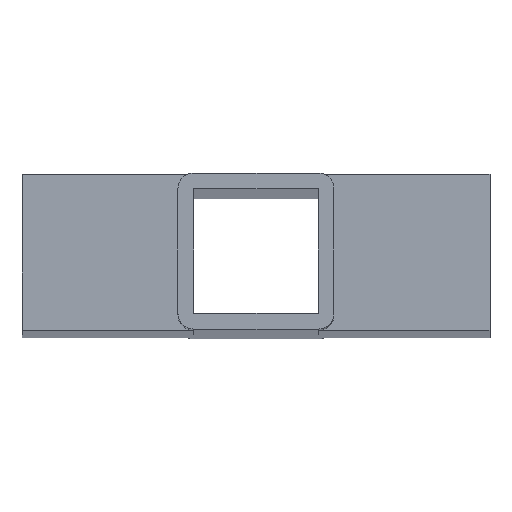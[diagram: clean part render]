
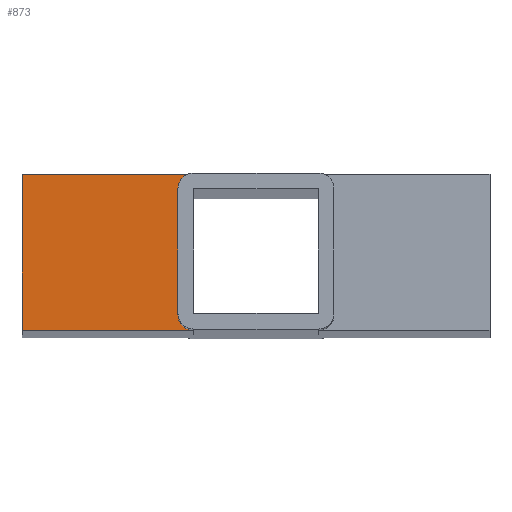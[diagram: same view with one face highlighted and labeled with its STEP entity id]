
A CAD part, top view. The second image highlights one B-rep face of the part: STEP entity #873.
In plain terms, the highlighted planar face has unit normal (0, 0, 1).
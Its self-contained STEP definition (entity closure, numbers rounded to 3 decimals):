
#44 = CARTESIAN_POINT ( 'NONE',  ( 0., 15., 400. ) ) ;
#69 = CARTESIAN_POINT ( 'NONE',  ( -12., 15., 400. ) ) ;
#86 = VERTEX_POINT ( 'NONE', #359 ) ;
#95 = VERTEX_POINT ( 'NONE', #365 ) ;
#97 = ORIENTED_EDGE ( 'NONE', *, *, #801, .F. ) ;
#107 = ORIENTED_EDGE ( 'NONE', *, *, #672, .F. ) ;
#114 = DIRECTION ( 'NONE',  ( -1., 0., 0. ) ) ;
#126 = CIRCLE ( 'NONE', #378, 3. ) ;
#130 = CARTESIAN_POINT ( 'NONE',  ( -12., -12., 400. ) ) ;
#136 = CARTESIAN_POINT ( 'NONE',  ( -45., 0., 400. ) ) ;
#146 = LINE ( 'NONE', #136, #1140 ) ;
#165 = LINE ( 'NONE', #614, #1149 ) ;
#227 = DIRECTION ( 'NONE',  ( 0., 0., 1. ) ) ;
#259 = DIRECTION ( 'NONE',  ( 0., -1., 0. ) ) ;
#260 = CARTESIAN_POINT ( 'NONE',  ( -45., -15., 400. ) ) ;
#261 = ORIENTED_EDGE ( 'NONE', *, *, #302, .F. ) ;
#302 = EDGE_CURVE ( 'NONE', #453, #364, #742, .T. ) ;
#315 = CARTESIAN_POINT ( 'NONE',  ( 0., -15., 400. ) ) ;
#359 = CARTESIAN_POINT ( 'NONE',  ( -12., -15., 400. ) ) ;
#360 = EDGE_CURVE ( 'NONE', #364, #760, #126, .T. ) ;
#364 = VERTEX_POINT ( 'NONE', #69 ) ;
#365 = CARTESIAN_POINT ( 'NONE',  ( -15., -12., 400. ) ) ;
#378 = AXIS2_PLACEMENT_3D ( 'NONE', #1116, #1216, #734 ) ;
#389 = EDGE_CURVE ( 'NONE', #760, #95, #165, .T. ) ;
#405 = VECTOR ( 'NONE', #114, 1000. ) ;
#453 = VERTEX_POINT ( 'NONE', #710 ) ;
#494 = ORIENTED_EDGE ( 'NONE', *, *, #360, .F. ) ;
#497 = VERTEX_POINT ( 'NONE', #260 ) ;
#530 = CIRCLE ( 'NONE', #926, 3. ) ;
#534 = DIRECTION ( 'NONE',  ( 1., 0., 0. ) ) ;
#592 = EDGE_CURVE ( 'NONE', #95, #86, #530, .T. ) ;
#614 = CARTESIAN_POINT ( 'NONE',  ( -15., 0., 400. ) ) ;
#630 = DIRECTION ( 'NONE',  ( 0., 1., 0. ) ) ;
#655 = ORIENTED_EDGE ( 'NONE', *, *, #592, .F. ) ;
#672 = EDGE_CURVE ( 'NONE', #497, #453, #146, .T. ) ;
#691 = DIRECTION ( 'NONE',  ( 1., 0., 0. ) ) ;
#710 = CARTESIAN_POINT ( 'NONE',  ( -45., 15., 400. ) ) ;
#712 = CARTESIAN_POINT ( 'NONE',  ( 0., 0., 400. ) ) ;
#730 = AXIS2_PLACEMENT_3D ( 'NONE', #712, #989, #691 ) ;
#734 = DIRECTION ( 'NONE',  ( 1., 0., 0. ) ) ;
#742 = LINE ( 'NONE', #44, #1037 ) ;
#760 = VERTEX_POINT ( 'NONE', #1110 ) ;
#785 = LINE ( 'NONE', #315, #405 ) ;
#796 = ORIENTED_EDGE ( 'NONE', *, *, #389, .F. ) ;
#801 = EDGE_CURVE ( 'NONE', #86, #497, #785, .T. ) ;
#806 = DIRECTION ( 'NONE',  ( 1., 0., 0. ) ) ;
#873 = ADVANCED_FACE ( 'NONE', ( #1166 ), #1078, .T. ) ;
#926 = AXIS2_PLACEMENT_3D ( 'NONE', #130, #227, #534 ) ;
#980 = EDGE_LOOP ( 'NONE', ( #494, #261, #107, #97, #655, #796 ) ) ;
#989 = DIRECTION ( 'NONE',  ( 0., 0., 1. ) ) ;
#1037 = VECTOR ( 'NONE', #806, 1000. ) ;
#1078 = PLANE ( 'NONE',  #730 ) ;
#1110 = CARTESIAN_POINT ( 'NONE',  ( -15., 12., 400. ) ) ;
#1116 = CARTESIAN_POINT ( 'NONE',  ( -12., 12., 400. ) ) ;
#1140 = VECTOR ( 'NONE', #630, 1000. ) ;
#1149 = VECTOR ( 'NONE', #259, 1000. ) ;
#1166 = FACE_OUTER_BOUND ( 'NONE', #980, .T. ) ;
#1216 = DIRECTION ( 'NONE',  ( 0., 0., 1. ) ) ;
